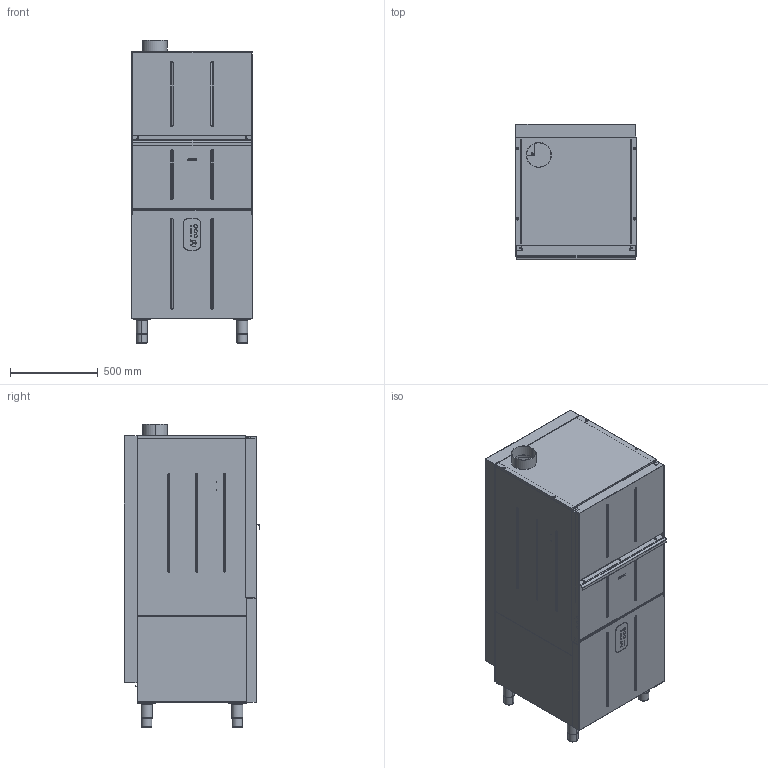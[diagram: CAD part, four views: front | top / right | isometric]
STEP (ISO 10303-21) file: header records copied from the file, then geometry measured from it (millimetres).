
FILE_DESCRIPTION (( 'STEP AP214' ), '1' );
FILE_NAME ('UW5757D.STEP', '2017-11-27T07:13:41', ( '' ), ( '' ), 'SwSTEP 2.0', 'SolidWorks 2016', '' );
FILE_SCHEMA (( 'AUTOMOTIVE_DESIGN' ));
Length unit declared in the file: millimetre
Products named in the file (22): Piede_ALP42_4349_3; Piede_ALP42_4349_2; Piede_ALP42_4349; 14504; 14602; 14548; 14603; 14547; 14569; 14826; 14509; 14539_2; 14539; 14825; 14510; 14672 (serigrafia); 14511; 14827; 14528; UW5757D; 14550; Piede_ALP42_4349_4
Assembly tree (21 placements, depth 2):
  UW5757D
    14511
    14510
    14825
    14539
    14539_2
    14509
    14826
    14569
    14547
    14603
    14548
    14602
    14504
    Piede_ALP42_4349
    Piede_ALP42_4349_2
    Piede_ALP42_4349_3
    Piede_ALP42_4349_4
    14550
    14528
    14827
    14672 (serigrafia)
Bounding box: 687.99 x 772 x 1723 mm (x, y, z)
Volume: 9327735.6 mm3; surface area: 13287627.8 mm2
Topology: 21 solids, 21 shells, 2210 faces, 5685 edges, 3604 vertices
Faces by surface type: plane 1161, cylinder 747, bspline 210, cone 92
Entity records: 77538 total; most frequent: CARTESIAN_POINT 22183, ORIENTED_EDGE 11368, DIRECTION 11055, EDGE_CURVE 5684, AXIS2_PLACEMENT_3D 3692, VECTOR 3671, LINE 3671, VERTEX_POINT 3604
